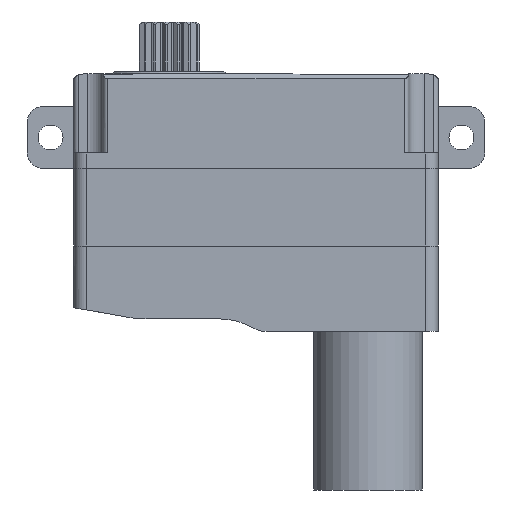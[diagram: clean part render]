
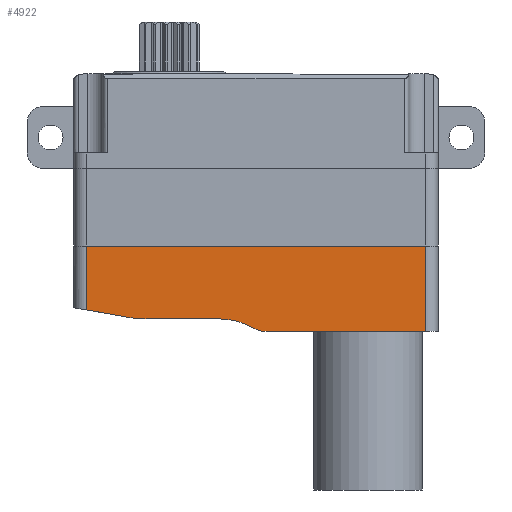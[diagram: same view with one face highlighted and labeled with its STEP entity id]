
A CAD part, front view. The second image highlights one B-rep face of the part: STEP entity #4922.
In plain terms, the highlighted planar face has unit normal (0, -1, 0).
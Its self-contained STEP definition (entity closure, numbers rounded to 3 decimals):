
#98 = EDGE_CURVE ( 'NONE', #11532, #2414, #5955, .T. ) ;
#241 = PLANE ( 'NONE',  #3954 ) ;
#376 = CARTESIAN_POINT ( 'NONE',  ( -3.849, -17.345, 2.725 ) ) ;
#648 = VECTOR ( 'NONE', #9096, 1000. ) ;
#690 = LINE ( 'NONE', #10212, #5314 ) ;
#804 = VECTOR ( 'NONE', #4131, 1000. ) ;
#887 = VERTEX_POINT ( 'NONE', #5797 ) ;
#910 = VERTEX_POINT ( 'NONE', #8487 ) ;
#1152 = EDGE_CURVE ( 'NONE', #5423, #910, #690, .T. ) ;
#1204 = DIRECTION ( 'NONE',  ( 0., 0., -1. ) ) ;
#1262 = ORIENTED_EDGE ( 'NONE', *, *, #3072, .T. ) ;
#1656 = FACE_OUTER_BOUND ( 'NONE', #9494, .T. ) ;
#1724 = ORIENTED_EDGE ( 'NONE', *, *, #2345, .T. ) ;
#1898 = DIRECTION ( 'NONE',  ( 0., 1., 0. ) ) ;
#2345 = EDGE_CURVE ( 'NONE', #3622, #887, #11113, .T. ) ;
#2349 = CARTESIAN_POINT ( 'NONE',  ( -3.849, -17.345, -1.001 ) ) ;
#2414 = VERTEX_POINT ( 'NONE', #5219 ) ;
#2521 = ORIENTED_EDGE ( 'NONE', *, *, #8944, .T. ) ;
#2885 = CARTESIAN_POINT ( 'NONE',  ( -25.749, -17.345, -1.393 ) ) ;
#3031 = ORIENTED_EDGE ( 'NONE', *, *, #9508, .T. ) ;
#3072 = EDGE_CURVE ( 'NONE', #9939, #11532, #8599, .T. ) ;
#3622 = VERTEX_POINT ( 'NONE', #7451 ) ;
#3750 = DIRECTION ( 'NONE',  ( 0., 0., -1. ) ) ;
#3935 = VECTOR ( 'NONE', #8485, 1000. ) ;
#3944 = CARTESIAN_POINT ( 'NONE',  ( -26.187, -17.345, 2.725 ) ) ;
#3954 = AXIS2_PLACEMENT_3D ( 'NONE', #6558, #6474, #1204 ) ;
#4131 = DIRECTION ( 'NONE',  ( 1., 0., 0. ) ) ;
#4563 = AXIS2_PLACEMENT_3D ( 'NONE', #7363, #8272, #10173 ) ;
#4922 = ADVANCED_FACE ( 'NONE', ( #1656 ), #241, .T. ) ;
#4976 = EDGE_CURVE ( 'NONE', #910, #10050, #10467, .T. ) ;
#5182 = ORIENTED_EDGE ( 'NONE', *, *, #5330, .F. ) ;
#5219 = CARTESIAN_POINT ( 'NONE',  ( -22.931, -17.345, -1.89 ) ) ;
#5314 = VECTOR ( 'NONE', #8464, 1000. ) ;
#5330 = EDGE_CURVE ( 'NONE', #5423, #2414, #9701, .T. ) ;
#5423 = VERTEX_POINT ( 'NONE', #11032 ) ;
#5426 = VERTEX_POINT ( 'NONE', #376 ) ;
#5458 = DIRECTION ( 'NONE',  ( 0., 1., 0. ) ) ;
#5470 = DIRECTION ( 'NONE',  ( 0., 0., 1. ) ) ;
#5559 = DIRECTION ( 'NONE',  ( 0., 0., -1. ) ) ;
#5797 = CARTESIAN_POINT ( 'NONE',  ( -3.849, -17.345, -2.775 ) ) ;
#5955 = LINE ( 'NONE', #2885, #648 ) ;
#6474 = DIRECTION ( 'NONE',  ( 0., -1., 0. ) ) ;
#6481 = CARTESIAN_POINT ( 'NONE',  ( -25.749, -17.345, -1.001 ) ) ;
#6558 = CARTESIAN_POINT ( 'NONE',  ( -26.187, -17.345, -1.001 ) ) ;
#6730 = CARTESIAN_POINT ( 'NONE',  ( -26.187, -17.345, -2.775 ) ) ;
#6850 = LINE ( 'NONE', #2349, #3935 ) ;
#7318 = ORIENTED_EDGE ( 'NONE', *, *, #4976, .T. ) ;
#7363 = CARTESIAN_POINT ( 'NONE',  ( -17.185, -17.345, -6.375 ) ) ;
#7451 = CARTESIAN_POINT ( 'NONE',  ( -14.218, -17.345, -2.775 ) ) ;
#7685 = CARTESIAN_POINT ( 'NONE',  ( -14.972, -17.345, -2.572 ) ) ;
#8108 = CARTESIAN_POINT ( 'NONE',  ( -14.218, -17.345, -1.275 ) ) ;
#8253 = ORIENTED_EDGE ( 'NONE', *, *, #10273, .F. ) ;
#8272 = DIRECTION ( 'NONE',  ( 0., 1., 0. ) ) ;
#8365 = CARTESIAN_POINT ( 'NONE',  ( -25.749, -17.345, -1.393 ) ) ;
#8464 = DIRECTION ( 'NONE',  ( 1., 0., 0. ) ) ;
#8485 = DIRECTION ( 'NONE',  ( 0., 0., 1. ) ) ;
#8487 = CARTESIAN_POINT ( 'NONE',  ( -17.185, -17.345, -1.975 ) ) ;
#8575 = CIRCLE ( 'NONE', #10236, 1.5 ) ;
#8599 = LINE ( 'NONE', #6481, #10271 ) ;
#8944 = EDGE_CURVE ( 'NONE', #887, #5426, #6850, .T. ) ;
#9096 = DIRECTION ( 'NONE',  ( 0.985, 0., -0.174 ) ) ;
#9112 = CARTESIAN_POINT ( 'NONE',  ( -21.959, -17.345, 3.625 ) ) ;
#9363 = ORIENTED_EDGE ( 'NONE', *, *, #1152, .T. ) ;
#9494 = EDGE_LOOP ( 'NONE', ( #5182, #9363, #7318, #8253, #1724, #2521, #3031, #1262, #11536 ) ) ;
#9508 = EDGE_CURVE ( 'NONE', #5426, #9939, #10955, .T. ) ;
#9701 = CIRCLE ( 'NONE', #10908, 5.6 ) ;
#9719 = VECTOR ( 'NONE', #10199, 1000. ) ;
#9939 = VERTEX_POINT ( 'NONE', #11126 ) ;
#10050 = VERTEX_POINT ( 'NONE', #7685 ) ;
#10173 = DIRECTION ( 'NONE',  ( 0., 0., 1. ) ) ;
#10199 = DIRECTION ( 'NONE',  ( -1., 0., 0. ) ) ;
#10212 = CARTESIAN_POINT ( 'NONE',  ( -26.187, -17.345, -1.975 ) ) ;
#10236 = AXIS2_PLACEMENT_3D ( 'NONE', #8108, #1898, #5470 ) ;
#10271 = VECTOR ( 'NONE', #5559, 1000. ) ;
#10273 = EDGE_CURVE ( 'NONE', #3622, #10050, #8575, .T. ) ;
#10467 = CIRCLE ( 'NONE', #4563, 4.4 ) ;
#10908 = AXIS2_PLACEMENT_3D ( 'NONE', #9112, #5458, #3750 ) ;
#10955 = LINE ( 'NONE', #3944, #9719 ) ;
#11032 = CARTESIAN_POINT ( 'NONE',  ( -21.959, -17.345, -1.975 ) ) ;
#11113 = LINE ( 'NONE', #6730, #804 ) ;
#11126 = CARTESIAN_POINT ( 'NONE',  ( -25.749, -17.345, 2.725 ) ) ;
#11532 = VERTEX_POINT ( 'NONE', #8365 ) ;
#11536 = ORIENTED_EDGE ( 'NONE', *, *, #98, .T. ) ;
